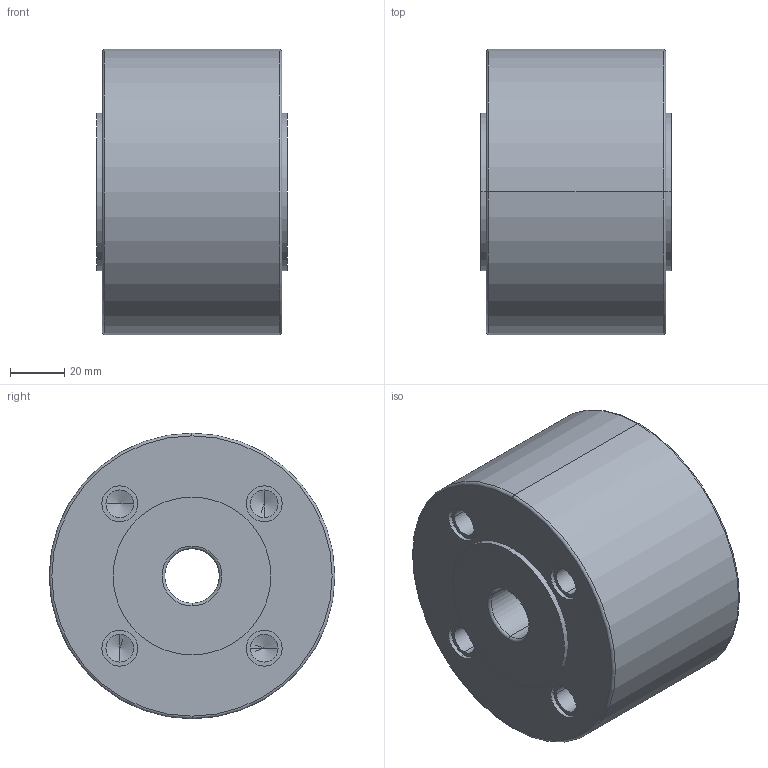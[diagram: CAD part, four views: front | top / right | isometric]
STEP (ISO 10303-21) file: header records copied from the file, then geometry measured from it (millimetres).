
FILE_DESCRIPTION (( 'STEP AP203' ), '1' );
FILE_NAME ('W8_PN10_DN020.STEP', '2012-10-31T06:55:06', ( 'luca.saino' ), ( 'Hewlett-Packard Company' ), 'SwSTEP 2.0', 'SolidWorks 2012', '' );
FILE_SCHEMA (( 'CONFIG_CONTROL_DESIGN' ));
Length unit declared in the file: millimetre
Products named in the file (1): W8_PN10_DN020
Bounding box: 70 x 105 x 105 mm (x, y, z)
Volume: 548715.7 mm3; surface area: 47375.3 mm2
Topology: 1 solids, 1 shells, 76 faces, 168 edges, 96 vertices
Faces by surface type: cylinder 40, cone 16, plane 12, torus 8
Entity records: 2085 total; most frequent: DIRECTION 402, CARTESIAN_POINT 325, ORIENTED_EDGE 304, AXIS2_PLACEMENT_3D 173, EDGE_CURVE 152, VERTEX_POINT 96, EDGE_LOOP 96, CIRCLE 96
